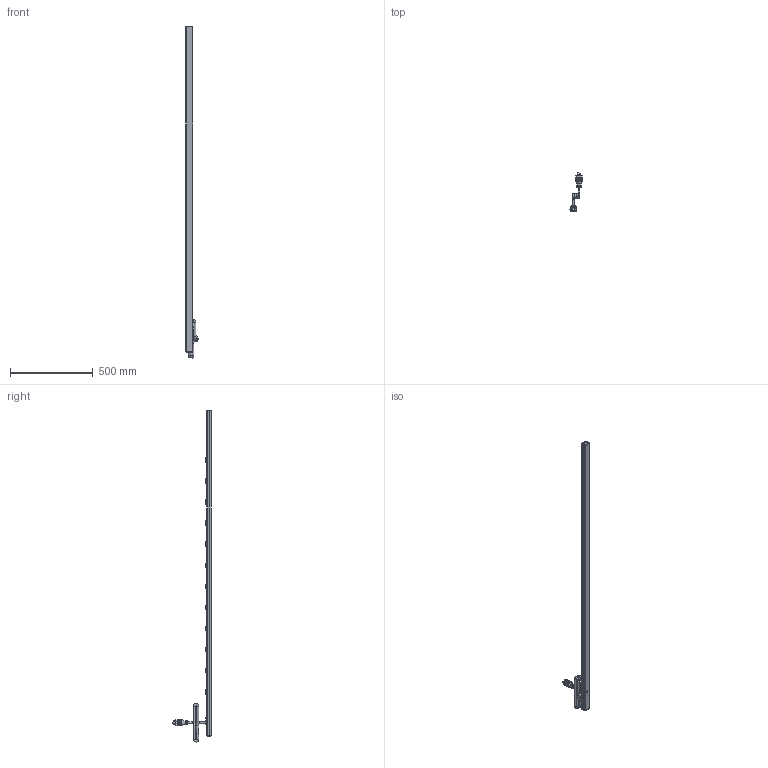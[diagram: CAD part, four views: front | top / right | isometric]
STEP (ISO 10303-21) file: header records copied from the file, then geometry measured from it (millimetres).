
FILE_DESCRIPTION((''),'2;1');
FILE_NAME('E:\Dutton\Manufacturing\drawings\Updated 2009\Vertical Rack Mount Strips\1589 Series\STEP''s\1589T77F1.stp','2010-01-21T08:49:13',('tfoster'),(''),'Autodesk Inventor 2010','Autodesk Inventor 2010','');
FILE_SCHEMA(('AUTOMOTIVE_DESIGN { 1 0 10303 214 1 1 1 1 }'));
Products named in the file (12): 1589T77F1; 77' - 12 Outlet top; 77' bottom; End Cap; End Cap w breaker; Reset Switch; #6 - 0.375 Type A screw; 20 amp Cored; toothwasher; round head 1-way 8-32 x 0.5 screw; 20 Amp Receptacle; Pilot light
Assembly tree (23 placements, depth 2):
  1589T77F1
    End Cap
    End Cap w breaker
    Reset Switch
    #6 - 0.375 Type A screw  x4
    20 amp Cored
    toothwasher
    round head 1-way 8-32 x 0.5 screw
    20 Amp Receptacle  x12
    Pilot light
  77' - 12 Outlet top
  77' bottom
Bounding box: 72.44 x 234.82 x 2000.14 mm (x, y, z)
Volume: 785768 mm3; surface area: 739700.7 mm2
Topology: 25 solids, 25 shells, 1516 faces, 4198 edges, 2713 vertices
Faces by surface type: plane 1004, cylinder 316, bspline 97, sphere 54, cone 29, torus 16
Full cylindrical faces by diameter (mm): 1.803 x3, 1.905 x2, 3.175 x12, 3.2 x2, 4.3 x1, 4.826 x2, 7.849 x1, 11 x4, 12.5 x1, 19.05 x2, 22.606 x2, 25.146 x3
Entity records: 29726 total; most frequent: CARTESIAN_POINT 8986, ORIENTED_EDGE 4404, DIRECTION 3975, EDGE_CURVE 2202, VERTEX_POINT 1505, VECTOR 1365, LINE 1365, AXIS2_PLACEMENT_3D 1305
